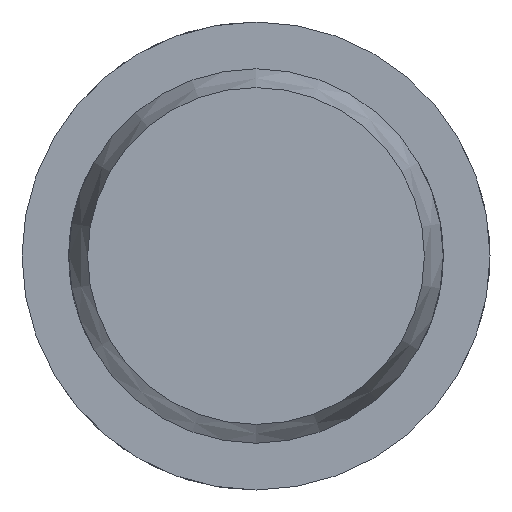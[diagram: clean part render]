
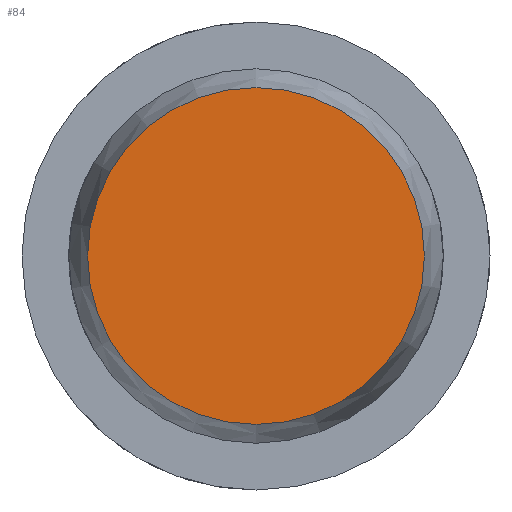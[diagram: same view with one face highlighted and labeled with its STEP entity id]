
A CAD part, left-side view. The second image highlights one B-rep face of the part: STEP entity #84.
In plain terms, the highlighted planar face has unit normal (-1, 0, 0).
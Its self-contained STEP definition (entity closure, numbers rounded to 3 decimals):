
#84 = ADVANCED_FACE( '', ( #131 ), #132, .F. );
#131 = FACE_OUTER_BOUND( '', #208, .T. );
#132 = PLANE( '', #209 );
#208 = EDGE_LOOP( '', ( #325 ) );
#209 = AXIS2_PLACEMENT_3D( '', #326, #327, #328 );
#325 = ORIENTED_EDGE( '', *, *, #483, .F. );
#326 = CARTESIAN_POINT( '', ( 0., 0., 0. ) );
#327 = DIRECTION( '', ( 1., 0., 0. ) );
#328 = DIRECTION( '', ( 0., 0., -1. ) );
#483 = EDGE_CURVE( '', #561, #561, #562, .T. );
#561 = VERTEX_POINT( '', #905 );
#562 = CIRCLE( '', #906, 7.196 );
#905 = CARTESIAN_POINT( '', ( 0., 0., -7.196 ) );
#906 = AXIS2_PLACEMENT_3D( '', #987, #988, #989 );
#987 = CARTESIAN_POINT( '', ( 0., 0., 0. ) );
#988 = DIRECTION( '', ( 1., 0., 0. ) );
#989 = DIRECTION( '', ( 0., 0., -1. ) );
